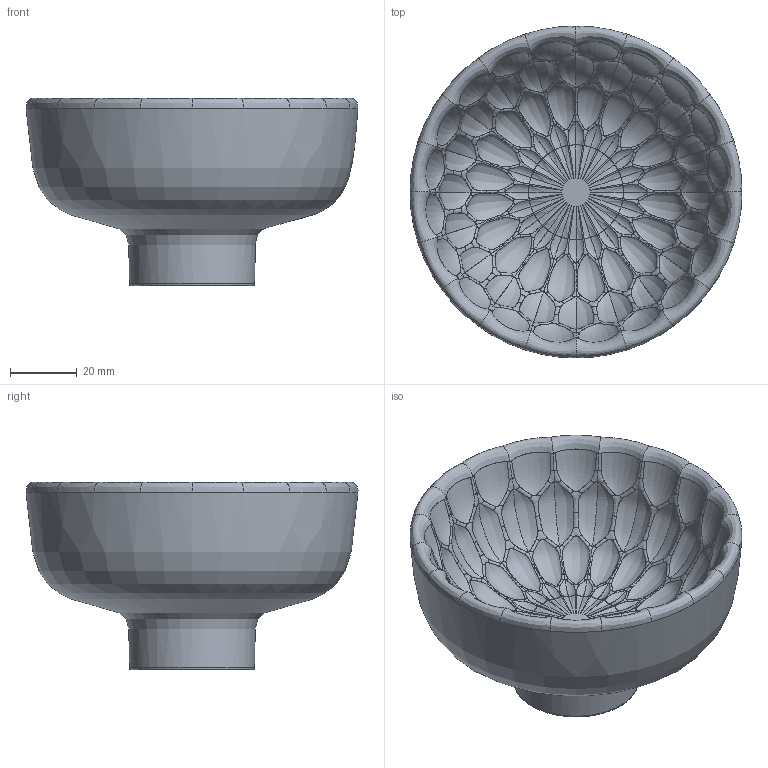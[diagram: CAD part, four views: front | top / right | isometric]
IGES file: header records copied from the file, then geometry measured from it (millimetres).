
Global section: file name: E:\Modelli 3D Kartell_3dd\Prodotti Revisione 1_3dd\da controllare_3dd\4754\Hanger_3d_Patricia Urquiola_Kartell S.igs; native system: Rhinoceros ( Mar 10 2014 ); preprocessor: Trout Lake IGES 012 Mar 10 2014; date: 180210.094852; units: millimetre
Bounding box: 99.24 x 99.24 x 55.99 mm (x, y, z)
Surface area: 31701.3 mm2 (no closed solid volume)
Topology: 0 solids, 0 shells, 606 faces, 22398 edges, 22393 vertices
Faces by surface type: bspline 606
